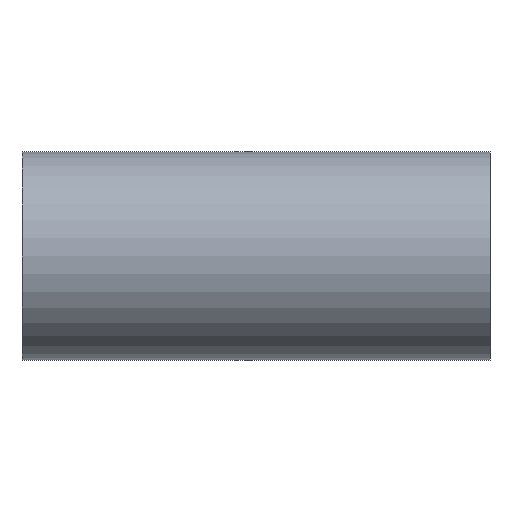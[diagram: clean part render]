
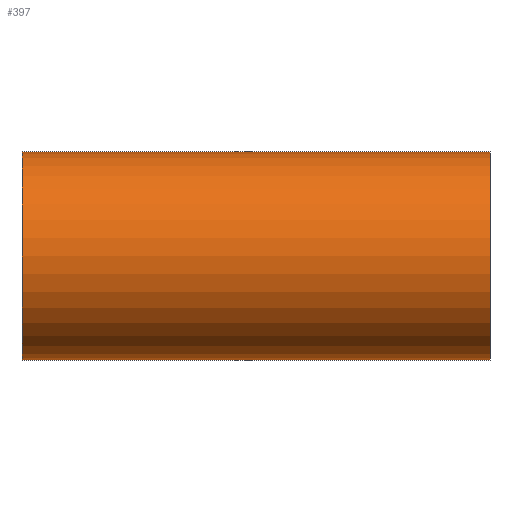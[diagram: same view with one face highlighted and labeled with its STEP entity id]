
A CAD part, front view. The second image highlights one B-rep face of the part: STEP entity #397.
In plain terms, the highlighted cylindrical face has radius 38.1 mm (diameter 76.2 mm), a partial arc.
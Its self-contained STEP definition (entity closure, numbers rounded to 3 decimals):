
#7 = ORIENTED_EDGE ( 'NONE', *, *, #305, .T. ) ;
#43 = ORIENTED_EDGE ( 'NONE', *, *, #464, .F. ) ;
#50 = CYLINDRICAL_SURFACE ( 'NONE', #377, 38.1 ) ;
#90 = CARTESIAN_POINT ( 'NONE',  ( -85.7, 0., 38.1 ) ) ;
#91 = ORIENTED_EDGE ( 'NONE', *, *, #432, .T. ) ;
#96 = CIRCLE ( 'NONE', #140, 38.1 ) ;
#110 = VERTEX_POINT ( 'NONE', #90 ) ;
#126 = LINE ( 'NONE', #146, #540 ) ;
#135 = CARTESIAN_POINT ( 'NONE',  ( 85.7, 0., 38.1 ) ) ;
#138 = DIRECTION ( 'NONE',  ( 1., 0., 0. ) ) ;
#140 = AXIS2_PLACEMENT_3D ( 'NONE', #429, #426, #421 ) ;
#145 = VERTEX_POINT ( 'NONE', #525 ) ;
#146 = CARTESIAN_POINT ( 'NONE',  ( -85.7, 0., 38.1 ) ) ;
#170 = DIRECTION ( 'NONE',  ( 1., 0., 0. ) ) ;
#172 = CARTESIAN_POINT ( 'NONE',  ( -85.7, 0., -38.1 ) ) ;
#174 = VERTEX_POINT ( 'NONE', #187 ) ;
#186 = EDGE_LOOP ( 'NONE', ( #43, #7, #91, #479 ) ) ;
#187 = CARTESIAN_POINT ( 'NONE',  ( 85.7, 0., -38.1 ) ) ;
#208 = AXIS2_PLACEMENT_3D ( 'NONE', #470, #459, #453 ) ;
#227 = DIRECTION ( 'NONE',  ( 1., 0., 0. ) ) ;
#228 = CARTESIAN_POINT ( 'NONE',  ( -85.7, 0., 0. ) ) ;
#271 = VECTOR ( 'NONE', #170, 1000. ) ;
#305 = EDGE_CURVE ( 'NONE', #110, #145, #511, .T. ) ;
#326 = EDGE_CURVE ( 'NONE', #174, #477, #96, .T. ) ;
#377 = AXIS2_PLACEMENT_3D ( 'NONE', #228, #227, #396 ) ;
#396 = DIRECTION ( 'NONE',  ( 0., 0., -1. ) ) ;
#397 = ADVANCED_FACE ( 'NONE', ( #425 ), #50, .T. ) ;
#409 = LINE ( 'NONE', #172, #271 ) ;
#421 = DIRECTION ( 'NONE',  ( 0., 0., -1. ) ) ;
#425 = FACE_OUTER_BOUND ( 'NONE', #186, .T. ) ;
#426 = DIRECTION ( 'NONE',  ( -1., 0., 0. ) ) ;
#429 = CARTESIAN_POINT ( 'NONE',  ( 85.7, 0., 0. ) ) ;
#432 = EDGE_CURVE ( 'NONE', #145, #174, #409, .T. ) ;
#453 = DIRECTION ( 'NONE',  ( 0., 0., -1. ) ) ;
#459 = DIRECTION ( 'NONE',  ( 1., 0., 0. ) ) ;
#464 = EDGE_CURVE ( 'NONE', #110, #477, #126, .T. ) ;
#470 = CARTESIAN_POINT ( 'NONE',  ( -85.7, 0., 0. ) ) ;
#477 = VERTEX_POINT ( 'NONE', #135 ) ;
#479 = ORIENTED_EDGE ( 'NONE', *, *, #326, .T. ) ;
#511 = CIRCLE ( 'NONE', #208, 38.1 ) ;
#525 = CARTESIAN_POINT ( 'NONE',  ( -85.7, 0., -38.1 ) ) ;
#540 = VECTOR ( 'NONE', #138, 1000. ) ;
